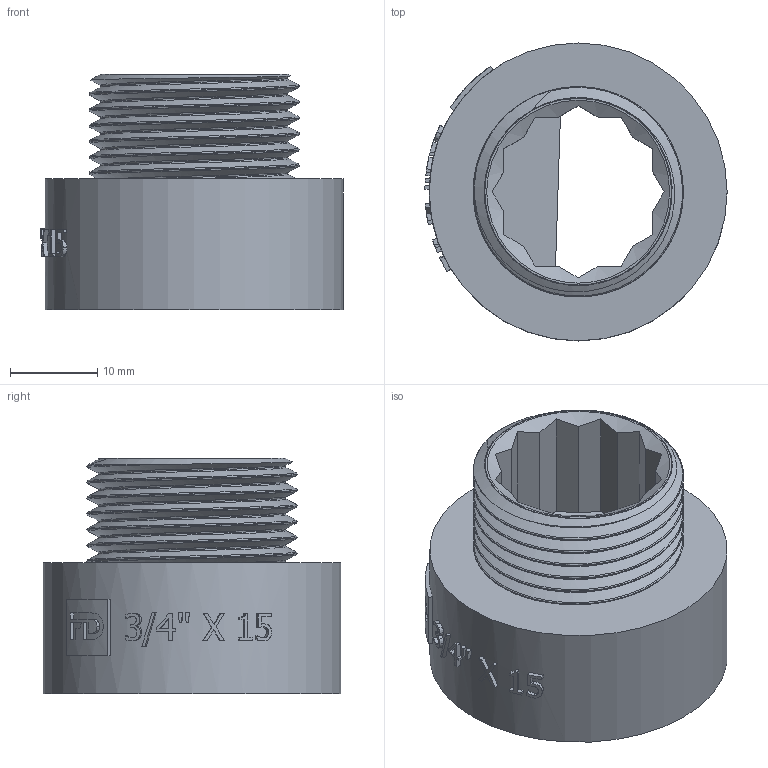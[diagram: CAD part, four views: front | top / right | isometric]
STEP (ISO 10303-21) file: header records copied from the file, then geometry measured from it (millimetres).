
FILE_DESCRIPTION(/* description */ (''),/* implementation_level */ '2;1');
FILE_NAME(/* name */ 'C:\Users\Doom\Desktop\Фадотех\Резьба\UN15 18.03.2020\UN15 18.03.2020.stp',/* time_stamp */ '2022-01-22T12:57:27+02:00',/* author */ ('Doom'),/* organization */ (''),/* preprocessor_version */ 'ST-DEVELOPER v18',/* originating_system */ 'Autodesk Inventor 2020',/* authorisation */ '');
FILE_SCHEMA (('AUTOMOTIVE_DESIGN { 1 0 10303 214 3 1 1 }'));
Length unit declared in the file: millimetre
Products named in the file (1): UD15 18.03.2020
Bounding box: 34.7 x 34.2 x 27 mm (x, y, z)
Volume: 9399.4 mm3; surface area: 11443.2 mm2
Topology: 3 solids, 3 shells, 200 faces, 550 edges, 368 vertices
Faces by surface type: plane 96, bspline 66, cylinder 34, cone 4
Full cylindrical faces by diameter (mm): 21.44 x2, 23.75 x8, 24.13 x5, 26.44 x2, 34.2 x1
Entity records: 15249 total; most frequent: CARTESIAN_POINT 10692, ORIENTED_EDGE 1092, DIRECTION 698, EDGE_CURVE 546, VERTEX_POINT 366, AXIS2_PLACEMENT_3D 241, EDGE_LOOP 220, LINE 216
